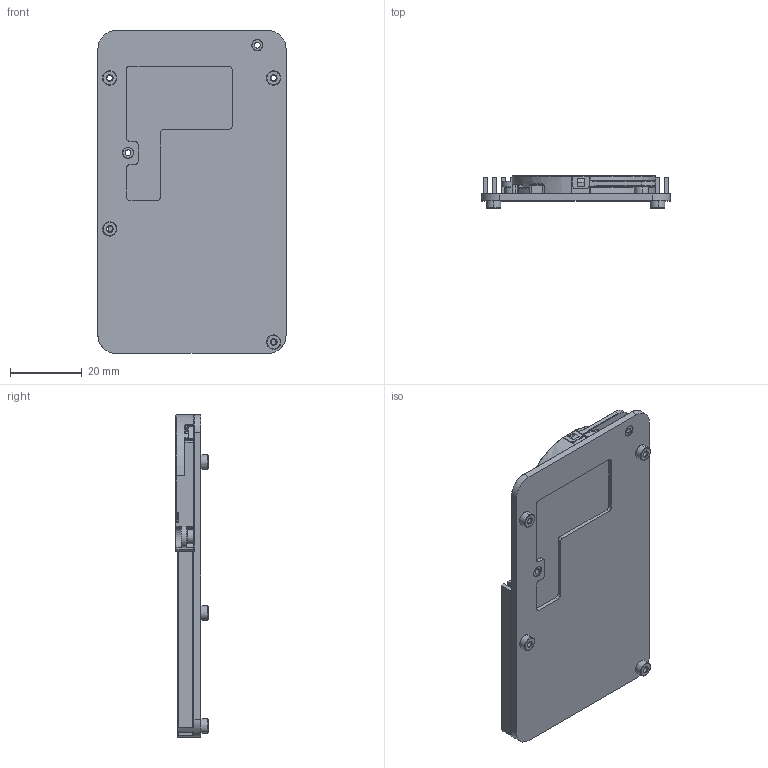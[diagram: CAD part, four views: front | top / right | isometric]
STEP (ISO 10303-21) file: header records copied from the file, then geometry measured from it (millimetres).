
FILE_DESCRIPTION((''),'2;1');
FILE_NAME('PS006_1008000_ASM','2024-01-09T09:43:49',('admin'),(''),'CREO PARAMETRIC BY PTC INC, 2023072','CREO PARAMETRIC BY PTC INC, 2023072','');
FILE_SCHEMA(('CONFIG_CONTROL_DESIGN','SHAPE_APPEARANCE_LAYERS_GROUPS'));
Length unit declared in the file: millimetre
Products named in the file (8): _100800; WBP00048-00900; WBP00036-012_0800; 4005_3D_1_20_1_ASM_ASM; 4005_3D_1_20_ASM_ASM; 1100; PS006_1008_1000_ASM; PS006_1008000_ASM
Assembly tree (12 placements, depth 5):
  PS006_1008000_ASM
    PS006_1008_1000_ASM
      _100800  x6
      4005_3D_1_20_ASM_ASM
        4005_3D_1_20_1_ASM_ASM
          WBP00048-00900
          WBP00036-012_0800
      1100
Bounding box: 52.45 x 9 x 89.93 mm (x, y, z)
Volume: 15263.2 mm3; surface area: 25249.1 mm2
Topology: 8 solids, 9 shells, 835 faces, 2345 edges, 1532 vertices
Faces by surface type: plane 461, cylinder 290, torus 44, cone 16, bspline 16, sphere 7, extrusion 1
Entity records: 21516 total; most frequent: CARTESIAN_POINT 4757, DIRECTION 3315, ORIENTED_EDGE 3274, EDGE_CURVE 1637, AXIS2_PLACEMENT_3D 1166, COLOUR_RGB 1121, VERTEX_POINT 1072, VECTOR 983
